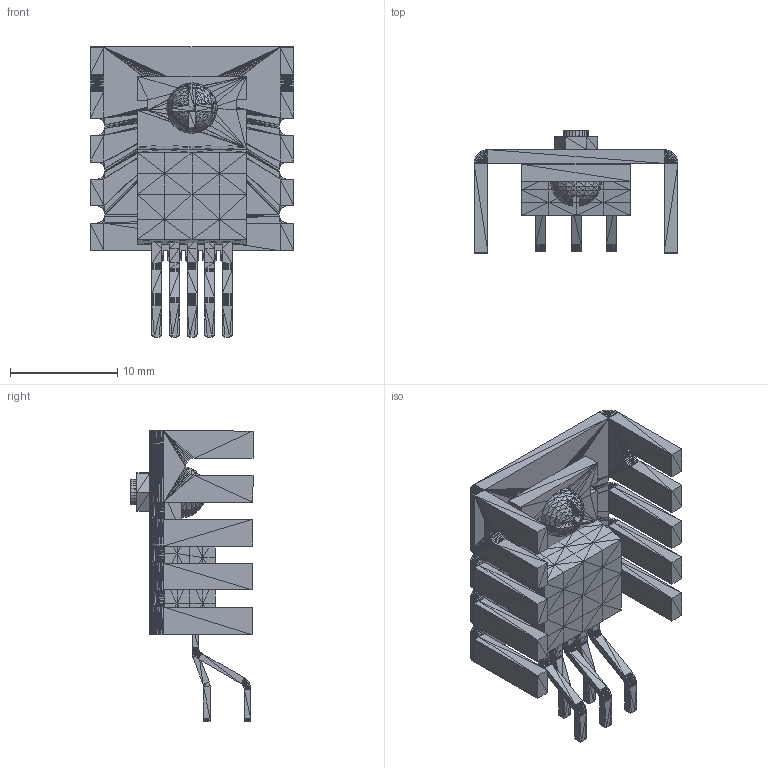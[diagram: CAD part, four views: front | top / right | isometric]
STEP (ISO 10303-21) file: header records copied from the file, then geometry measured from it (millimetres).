
FILE_DESCRIPTION(('HOOPS Exchange Step'),'2;1');
FILE_NAME('***.stp');
FILE_SCHEMA( ('AP242_MANAGED_MODEL_BASED_3D_ENGINEERING_MIM_LF {1 0 10303 442 1 1 4 }') );
Length unit declared in the file: inch
Products named in the file (13): TO-220_5WHTSNKSM_2; TO-220_5WHTSNKSM_3; TO-220_5WHTSNKSM_4; TO-220_5WHTSNKSM_5; TO-220_5WHTSNKSM_6; TO-220_5WHTSNKSM_7; TO-220_5WHTSNKSM_8; TO-220_5WHTSNKSM_9; TO-220_5WHTSNKSM_10; TO-220_5WHTSNKSM_11; TO-220_5WHTSNKSM_12; TO-220_5WHTSNKSM_13; TO-220_5WHTSNKSM
Assembly tree (12 placements, depth 2):
  TO-220_5WHTSNKSM
    TO-220_5WHTSNKSM_2
    TO-220_5WHTSNKSM_3
    TO-220_5WHTSNKSM_4
    TO-220_5WHTSNKSM_5
    TO-220_5WHTSNKSM_6
    TO-220_5WHTSNKSM_7
    TO-220_5WHTSNKSM_8
    TO-220_5WHTSNKSM_9
    TO-220_5WHTSNKSM_10
    TO-220_5WHTSNKSM_11
    TO-220_5WHTSNKSM_12
    TO-220_5WHTSNKSM_13
Bounding box: 19.05 x 11.4 x 27.1 mm (x, y, z)
Surface area: 4769.3 mm2 (no closed solid volume)
Topology: 0 solids, 6922 shells, 6922 faces, 18156 edges, 17584 vertices
Faces by surface type: plane 6922
Entity records: 219852 total; most frequent: CARTESIAN_POINT 42688, DIRECTION 32052, ORIENTED_EDGE 20766, VECTOR 18156, LINE 18156, EDGE_CURVE 18156, VERTEX_POINT 17584, AXIS2_PLACEMENT_3D 6948
